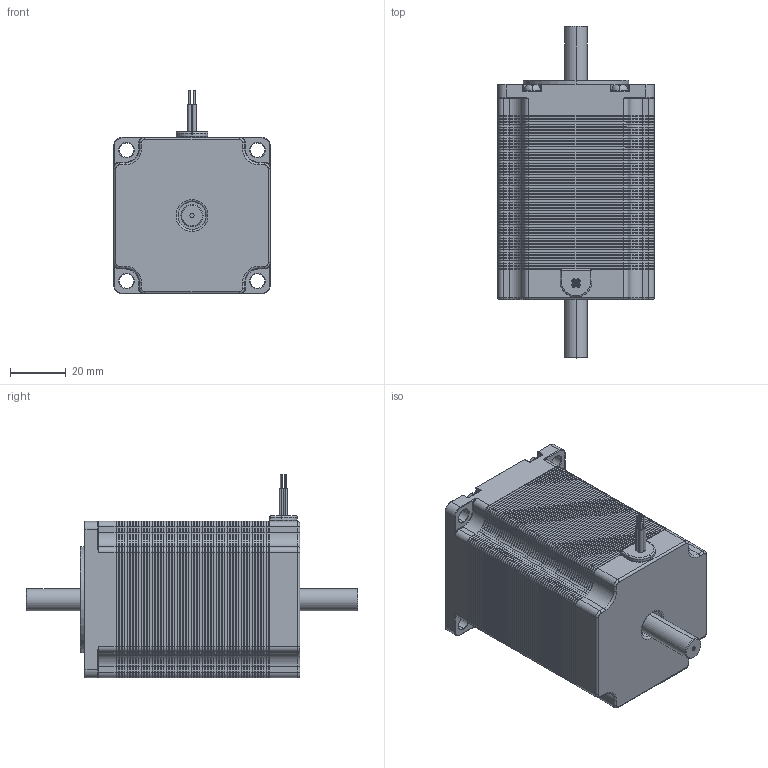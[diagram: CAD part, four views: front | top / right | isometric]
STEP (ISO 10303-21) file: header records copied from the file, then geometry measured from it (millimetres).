
FILE_DESCRIPTION (( 'STEP AP214' ), '1' );
FILE_NAME ('Nema 23 Stepper Motor length 78mm_DS_8mm.STEP', '2020-11-11T10:53:13', ( 'Moofasta' ), ( '' ), 'SwSTEP 2.0', 'SolidWorks 2020', '' );
FILE_SCHEMA (( 'AUTOMOTIVE_DESIGN' ));
Length unit declared in the file: millimetre
Products named in the file (1): Nema 23 Stepper Motor length 78mm_DS_8mm
Bounding box: 56.3 x 119.5 x 73.3 mm (x, y, z)
Volume: 225501 mm3; surface area: 343192 mm2
Topology: 71 solids, 71 shells, 4546 faces, 10332 edges, 5914 vertices
Faces by surface type: plane 2260, cone 1348, cylinder 824, torus 94, sphere 12, bspline 8
Entity records: 170020 total; most frequent: DIRECTION 22458, CARTESIAN_POINT 21221, ORIENTED_EDGE 20624, EDGE_CURVE 10312, AXIS2_PLACEMENT_3D 7679, LINE 7100, VECTOR 7100, VERTEX_POINT 5914
